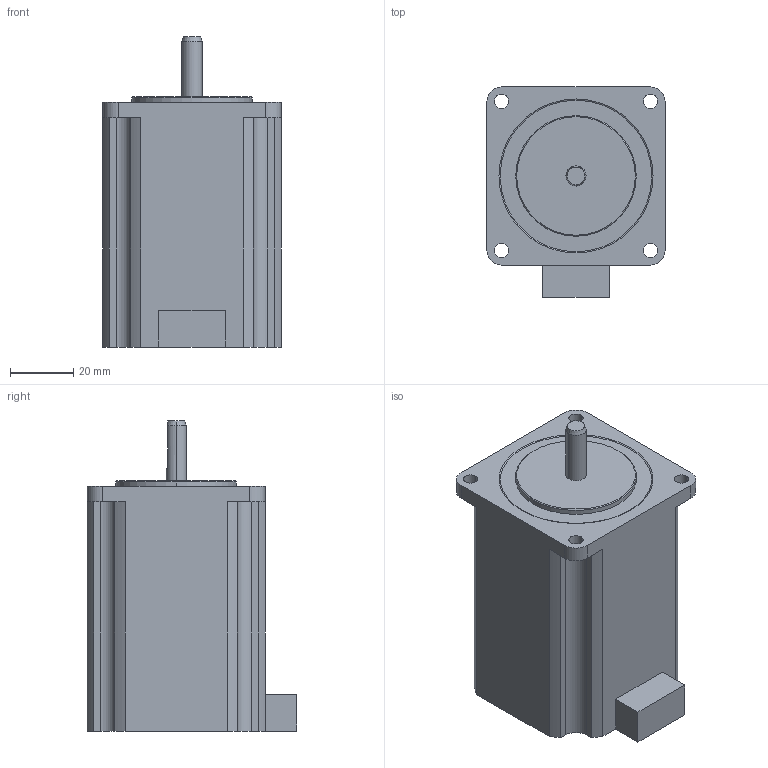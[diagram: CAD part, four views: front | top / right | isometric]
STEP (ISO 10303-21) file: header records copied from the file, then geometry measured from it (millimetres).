
FILE_DESCRIPTION (( 'STEP AP203' ), '1' );
FILE_NAME ('PMSA-U56D5_3D.STEP', '2016-11-15T04:52:58', ( 'SKJ00869' ), ( '' ), 'SwSTEP 2.0', 'SolidWorks 2014', '' );
FILE_SCHEMA (( 'CONFIG_CONTROL_DESIGN' ));
Length unit declared in the file: millimetre
Products named in the file (1): PMSA-U56D5_3D
Bounding box: 56.4 x 66.4 x 98.1 mm (x, y, z)
Volume: 227487.4 mm3; surface area: 23728.3 mm2
Topology: 1 solids, 1 shells, 62 faces, 167 edges, 110 vertices
Faces by surface type: cylinder 28, plane 27, cone 7
Entity records: 2065 total; most frequent: DIRECTION 358, CARTESIAN_POINT 350, ORIENTED_EDGE 334, EDGE_CURVE 167, AXIS2_PLACEMENT_3D 130, VERTEX_POINT 110, VECTOR 98, LINE 98
